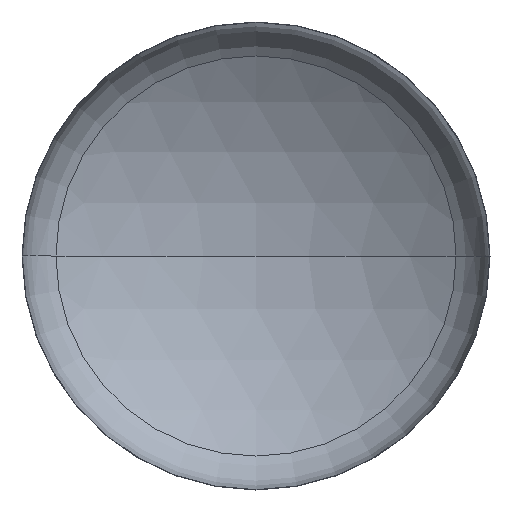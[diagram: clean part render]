
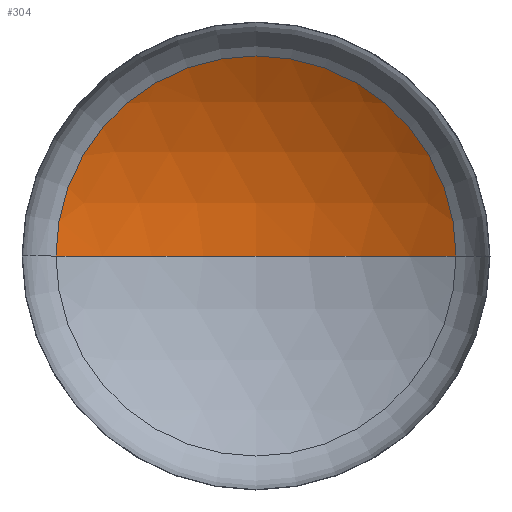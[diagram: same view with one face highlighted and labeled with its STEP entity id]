
A CAD part, front view. The second image highlights one B-rep face of the part: STEP entity #304.
In plain terms, the highlighted spherical face has radius 3040 mm.
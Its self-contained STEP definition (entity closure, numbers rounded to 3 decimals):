
#5 = EDGE_LOOP ( 'NONE', ( #112, #70, #18 ) ) ;
#13 = AXIS2_PLACEMENT_3D ( 'NONE', #123, #163, #165 ) ;
#18 = ORIENTED_EDGE ( 'NONE', *, *, #372, .T. ) ;
#26 = CARTESIAN_POINT ( 'NONE',  ( 0., -2055.013, 0. ) ) ;
#29 = DIRECTION ( 'NONE',  ( -1., 0., 0. ) ) ;
#38 = DIRECTION ( 'NONE',  ( 0., 0., 1. ) ) ;
#42 = AXIS2_PLACEMENT_3D ( 'NONE', #26, #38, #250 ) ;
#44 = AXIS2_PLACEMENT_3D ( 'NONE', #279, #280, #29 ) ;
#66 = VERTEX_POINT ( 'NONE', #254 ) ;
#70 = ORIENTED_EDGE ( 'NONE', *, *, #353, .T. ) ;
#73 = VERTEX_POINT ( 'NONE', #297 ) ;
#79 = AXIS2_PLACEMENT_3D ( 'NONE', #170, #289, #151 ) ;
#93 = VERTEX_POINT ( 'NONE', #249 ) ;
#112 = ORIENTED_EDGE ( 'NONE', *, *, #357, .F. ) ;
#123 = CARTESIAN_POINT ( 'NONE',  ( 0., 514.453, 0. ) ) ;
#151 = DIRECTION ( 'NONE',  ( -1., 0., 0. ) ) ;
#155 = CIRCLE ( 'NONE', #42, 3040. ) ;
#163 = DIRECTION ( 'NONE',  ( 0., -1., 0. ) ) ;
#165 = DIRECTION ( 'NONE',  ( 1., 0., 0. ) ) ;
#170 = CARTESIAN_POINT ( 'NONE',  ( 0., -2055.013, 0. ) ) ;
#203 = CIRCLE ( 'NONE', #13, 1624.635 ) ;
#249 = CARTESIAN_POINT ( 'NONE',  ( 1624.635, 514.453, 0. ) ) ;
#250 = DIRECTION ( 'NONE',  ( 1., 0., 0. ) ) ;
#254 = CARTESIAN_POINT ( 'NONE',  ( -1624.635, 514.453, 0. ) ) ;
#279 = CARTESIAN_POINT ( 'NONE',  ( 0., -2055.013, 0. ) ) ;
#280 = DIRECTION ( 'NONE',  ( 0., 0., -1. ) ) ;
#283 = FACE_OUTER_BOUND ( 'NONE', #5, .T. ) ;
#289 = DIRECTION ( 'NONE',  ( 0., 0., -1. ) ) ;
#292 = SPHERICAL_SURFACE ( 'NONE', #44, 3040. ) ;
#297 = CARTESIAN_POINT ( 'NONE',  ( 0., 984.987, 0. ) ) ;
#304 = ADVANCED_FACE ( 'NONE', ( #283 ), #292, .F. ) ;
#330 = CIRCLE ( 'NONE', #79, 3040. ) ;
#353 = EDGE_CURVE ( 'NONE', #73, #93, #330, .T. ) ;
#357 = EDGE_CURVE ( 'NONE', #73, #66, #155, .T. ) ;
#372 = EDGE_CURVE ( 'NONE', #93, #66, #203, .T. ) ;
